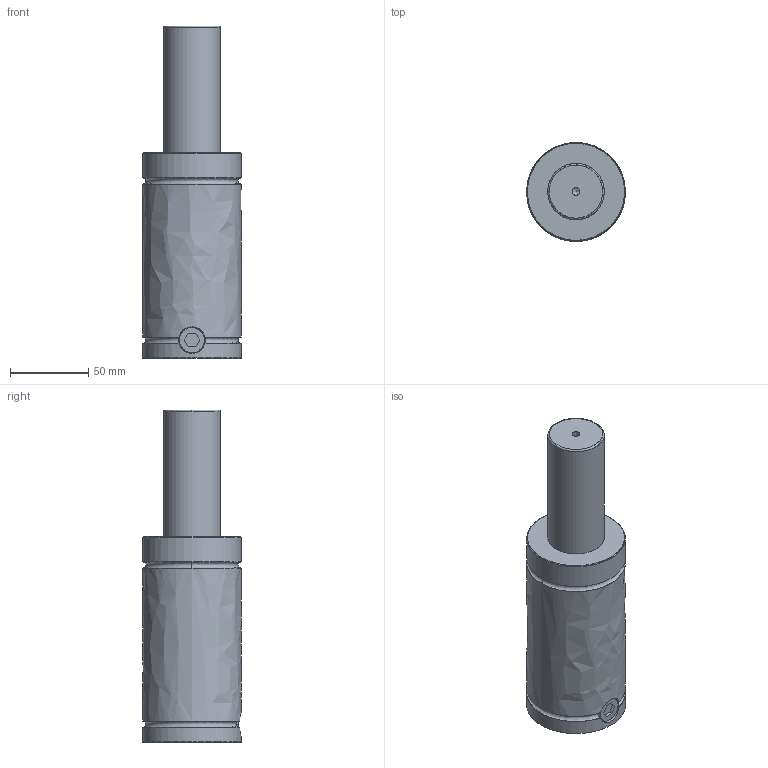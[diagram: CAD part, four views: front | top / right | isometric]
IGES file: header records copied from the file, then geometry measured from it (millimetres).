
Start section: VISI Layer Mapping Iges    VISI  0      LAYER_EMPTY  1      wwww  7      W_PD700  8      S_PD700  10     W_PD1000  11     S_PD1000  13     W_PD2000  14     S_PD2000  16     W_PD3000  17     S_PD3000  19     W_PD4000  20     S_PD4000  22     W_PD7000  23     S_PD7000  28     W_350  29     MS-350  30     MC-350  31     MP-350  32     MB-350  33     MH-350  34     MK-350  35     MPL-350  39     W_500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
Global section: file name: E:\だ錶臢\だ錶臢3D\SYLINDER\PT Series\PT1500\PT1500\PT1500-80.igs; native system: VISI 16.0; preprocessor: 2.0; author: 11; organization: 0; date: 500.; units: mil
Bounding box: 63 x 63 x 212 mm (x, y, z)
Surface area: 44063.9 mm2 (no closed solid volume)
Topology: 0 solids, 0 shells, 33 faces, 476 edges, 450 vertices
Faces by surface type: bspline 33
